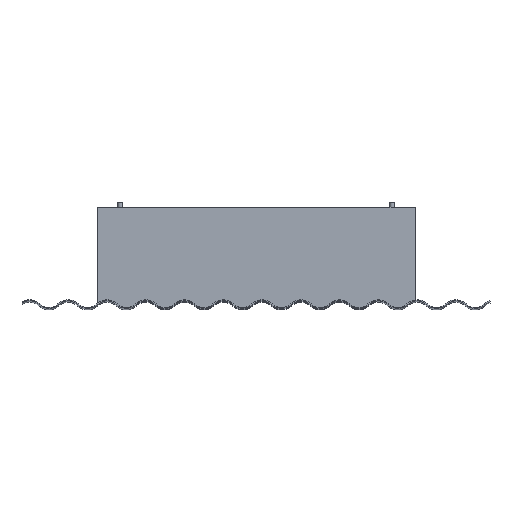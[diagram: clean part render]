
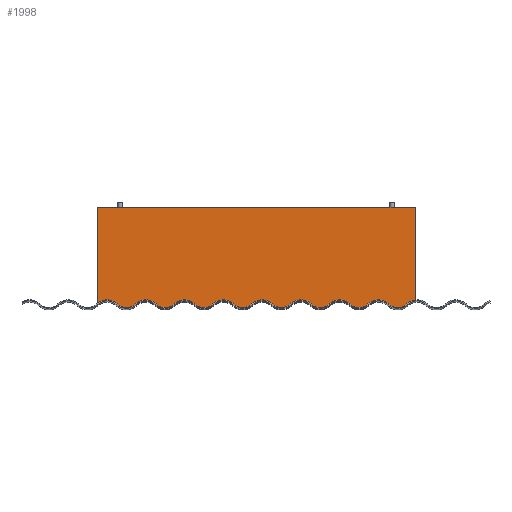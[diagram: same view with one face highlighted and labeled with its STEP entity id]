
A CAD part, top view. The second image highlights one B-rep face of the part: STEP entity #1998.
In plain terms, the highlighted planar face has unit normal (0, 0, 1).
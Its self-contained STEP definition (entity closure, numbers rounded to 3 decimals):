
#79=LINE('',#3298,#220);
#83=LINE('',#3341,#224);
#85=LINE('',#3346,#226);
#220=VECTOR('',#2598,10.);
#224=VECTOR('',#2640,10.);
#226=VECTOR('',#2646,10.);
#320=PLANE('',#2183);
#375=FACE_OUTER_BOUND('',#489,.T.);
#489=EDGE_LOOP('',(#1465,#1466,#1467,#1468,#1469,#1470,#1471,#1472,#1473,
#1474,#1475,#1476,#1477,#1478,#1479,#1480,#1481,#1482,#1483,#1484));
#631=CIRCLE('',#2184,30.);
#632=CIRCLE('',#2185,30.);
#633=CIRCLE('',#2186,26.);
#634=CIRCLE('',#2187,30.);
#635=CIRCLE('',#2188,26.);
#636=CIRCLE('',#2189,30.);
#637=CIRCLE('',#2190,26.);
#638=CIRCLE('',#2191,30.);
#639=CIRCLE('',#2192,26.);
#640=CIRCLE('',#2193,30.);
#641=CIRCLE('',#2194,26.);
#642=CIRCLE('',#2195,30.);
#643=CIRCLE('',#2196,26.);
#644=CIRCLE('',#2197,30.);
#645=CIRCLE('',#2198,26.);
#646=CIRCLE('',#2199,30.);
#647=CIRCLE('',#2200,26.);
#817=VERTEX_POINT('',#3292);
#819=VERTEX_POINT('',#3296);
#838=VERTEX_POINT('',#3338);
#839=VERTEX_POINT('',#3340);
#840=VERTEX_POINT('',#3344);
#841=VERTEX_POINT('',#3347);
#842=VERTEX_POINT('',#3349);
#843=VERTEX_POINT('',#3351);
#844=VERTEX_POINT('',#3353);
#845=VERTEX_POINT('',#3355);
#846=VERTEX_POINT('',#3357);
#847=VERTEX_POINT('',#3359);
#848=VERTEX_POINT('',#3361);
#849=VERTEX_POINT('',#3363);
#850=VERTEX_POINT('',#3365);
#851=VERTEX_POINT('',#3367);
#852=VERTEX_POINT('',#3369);
#853=VERTEX_POINT('',#3371);
#854=VERTEX_POINT('',#3373);
#855=VERTEX_POINT('',#3375);
#1058=EDGE_CURVE('',#819,#817,#79,.T.);
#1079=EDGE_CURVE('',#839,#838,#83,.T.);
#1081=EDGE_CURVE('',#817,#840,#631,.T.);
#1082=EDGE_CURVE('',#819,#839,#85,.T.);
#1083=EDGE_CURVE('',#841,#838,#632,.T.);
#1084=EDGE_CURVE('',#842,#841,#633,.T.);
#1085=EDGE_CURVE('',#843,#842,#634,.T.);
#1086=EDGE_CURVE('',#844,#843,#635,.T.);
#1087=EDGE_CURVE('',#845,#844,#636,.T.);
#1088=EDGE_CURVE('',#846,#845,#637,.T.);
#1089=EDGE_CURVE('',#847,#846,#638,.T.);
#1090=EDGE_CURVE('',#848,#847,#639,.T.);
#1091=EDGE_CURVE('',#849,#848,#640,.T.);
#1092=EDGE_CURVE('',#850,#849,#641,.T.);
#1093=EDGE_CURVE('',#851,#850,#642,.T.);
#1094=EDGE_CURVE('',#852,#851,#643,.T.);
#1095=EDGE_CURVE('',#853,#852,#644,.T.);
#1096=EDGE_CURVE('',#854,#853,#645,.T.);
#1097=EDGE_CURVE('',#855,#854,#646,.T.);
#1098=EDGE_CURVE('',#840,#855,#647,.T.);
#1465=ORIENTED_EDGE('',*,*,#1081,.F.);
#1466=ORIENTED_EDGE('',*,*,#1058,.F.);
#1467=ORIENTED_EDGE('',*,*,#1082,.T.);
#1468=ORIENTED_EDGE('',*,*,#1079,.T.);
#1469=ORIENTED_EDGE('',*,*,#1083,.F.);
#1470=ORIENTED_EDGE('',*,*,#1084,.F.);
#1471=ORIENTED_EDGE('',*,*,#1085,.F.);
#1472=ORIENTED_EDGE('',*,*,#1086,.F.);
#1473=ORIENTED_EDGE('',*,*,#1087,.F.);
#1474=ORIENTED_EDGE('',*,*,#1088,.F.);
#1475=ORIENTED_EDGE('',*,*,#1089,.F.);
#1476=ORIENTED_EDGE('',*,*,#1090,.F.);
#1477=ORIENTED_EDGE('',*,*,#1091,.F.);
#1478=ORIENTED_EDGE('',*,*,#1092,.F.);
#1479=ORIENTED_EDGE('',*,*,#1093,.F.);
#1480=ORIENTED_EDGE('',*,*,#1094,.F.);
#1481=ORIENTED_EDGE('',*,*,#1095,.F.);
#1482=ORIENTED_EDGE('',*,*,#1096,.F.);
#1483=ORIENTED_EDGE('',*,*,#1097,.F.);
#1484=ORIENTED_EDGE('',*,*,#1098,.F.);
#1998=ADVANCED_FACE('',(#375),#320,.T.);
#2183=AXIS2_PLACEMENT_3D('',#3343,#2642,#2643);
#2184=AXIS2_PLACEMENT_3D('',#3345,#2644,#2645);
#2185=AXIS2_PLACEMENT_3D('',#3348,#2647,#2648);
#2186=AXIS2_PLACEMENT_3D('',#3350,#2649,#2650);
#2187=AXIS2_PLACEMENT_3D('',#3352,#2651,#2652);
#2188=AXIS2_PLACEMENT_3D('',#3354,#2653,#2654);
#2189=AXIS2_PLACEMENT_3D('',#3356,#2655,#2656);
#2190=AXIS2_PLACEMENT_3D('',#3358,#2657,#2658);
#2191=AXIS2_PLACEMENT_3D('',#3360,#2659,#2660);
#2192=AXIS2_PLACEMENT_3D('',#3362,#2661,#2662);
#2193=AXIS2_PLACEMENT_3D('',#3364,#2663,#2664);
#2194=AXIS2_PLACEMENT_3D('',#3366,#2665,#2666);
#2195=AXIS2_PLACEMENT_3D('',#3368,#2667,#2668);
#2196=AXIS2_PLACEMENT_3D('',#3370,#2669,#2670);
#2197=AXIS2_PLACEMENT_3D('',#3372,#2671,#2672);
#2198=AXIS2_PLACEMENT_3D('',#3374,#2673,#2674);
#2199=AXIS2_PLACEMENT_3D('',#3376,#2675,#2676);
#2200=AXIS2_PLACEMENT_3D('',#3377,#2677,#2678);
#2598=DIRECTION('',(0.,-1.,0.));
#2640=DIRECTION('',(0.,-1.,0.));
#2642=DIRECTION('center_axis',(0.,0.,1.));
#2643=DIRECTION('ref_axis',(-1.,0.,0.));
#2644=DIRECTION('center_axis',(0.,0.,1.));
#2645=DIRECTION('ref_axis',(-0.681,-0.732,0.));
#2646=DIRECTION('',(-1.,0.,0.));
#2647=DIRECTION('center_axis',(0.,0.,1.));
#2648=DIRECTION('ref_axis',(-0.681,-0.732,0.));
#2649=DIRECTION('center_axis',(0.,0.,-1.));
#2650=DIRECTION('ref_axis',(-0.681,-0.732,0.));
#2651=DIRECTION('center_axis',(0.,0.,1.));
#2652=DIRECTION('ref_axis',(-0.681,-0.732,0.));
#2653=DIRECTION('center_axis',(0.,0.,-1.));
#2654=DIRECTION('ref_axis',(-0.681,-0.732,0.));
#2655=DIRECTION('center_axis',(0.,0.,1.));
#2656=DIRECTION('ref_axis',(-0.681,-0.732,0.));
#2657=DIRECTION('center_axis',(0.,0.,-1.));
#2658=DIRECTION('ref_axis',(-0.681,-0.732,0.));
#2659=DIRECTION('center_axis',(0.,0.,1.));
#2660=DIRECTION('ref_axis',(-0.681,-0.732,0.));
#2661=DIRECTION('center_axis',(0.,0.,-1.));
#2662=DIRECTION('ref_axis',(-0.681,-0.732,0.));
#2663=DIRECTION('center_axis',(0.,0.,1.));
#2664=DIRECTION('ref_axis',(-0.681,-0.732,0.));
#2665=DIRECTION('center_axis',(0.,0.,-1.));
#2666=DIRECTION('ref_axis',(-0.681,-0.732,0.));
#2667=DIRECTION('center_axis',(0.,0.,1.));
#2668=DIRECTION('ref_axis',(-0.681,-0.732,0.));
#2669=DIRECTION('center_axis',(0.,0.,-1.));
#2670=DIRECTION('ref_axis',(-0.681,-0.732,0.));
#2671=DIRECTION('center_axis',(0.,0.,1.));
#2672=DIRECTION('ref_axis',(-0.681,-0.732,0.));
#2673=DIRECTION('center_axis',(0.,0.,-1.));
#2674=DIRECTION('ref_axis',(-0.681,-0.732,0.));
#2675=DIRECTION('center_axis',(0.,0.,1.));
#2676=DIRECTION('ref_axis',(-0.681,-0.732,0.));
#2677=DIRECTION('center_axis',(0.,0.,-1.));
#2678=DIRECTION('ref_axis',(0.,-1.,0.));
#3292=CARTESIAN_POINT('',(312.5,16.725,312.5));
#3296=CARTESIAN_POINT('',(312.5,200.,312.5));
#3298=CARTESIAN_POINT('',(312.5,200.,312.5));
#3338=CARTESIAN_POINT('',(-312.5,10.424,312.5));
#3340=CARTESIAN_POINT('',(-312.5,200.,312.5));
#3341=CARTESIAN_POINT('',(-312.5,200.,312.5));
#3343=CARTESIAN_POINT('Origin',(312.5,200.,312.5));
#3344=CARTESIAN_POINT('',(296.121,8.964,312.5));
#3345=CARTESIAN_POINT('Origin',(316.555,-13.,312.5));
#3346=CARTESIAN_POINT('',(312.5,200.,312.5));
#3347=CARTESIAN_POINT('',(-273.322,8.964,312.5));
#3348=CARTESIAN_POINT('Origin',(-293.756,-13.,312.5));
#3349=CARTESIAN_POINT('',(-237.902,8.964,312.5));
#3350=CARTESIAN_POINT('Origin',(-255.612,28.,312.5));
#3351=CARTESIAN_POINT('',(-197.033,8.964,312.5));
#3352=CARTESIAN_POINT('Origin',(-217.467,-13.,312.5));
#3353=CARTESIAN_POINT('',(-161.613,8.964,312.5));
#3354=CARTESIAN_POINT('Origin',(-179.323,28.,312.5));
#3355=CARTESIAN_POINT('',(-120.744,8.964,312.5));
#3356=CARTESIAN_POINT('Origin',(-141.178,-13.,312.5));
#3357=CARTESIAN_POINT('',(-85.324,8.964,312.5));
#3358=CARTESIAN_POINT('Origin',(-103.034,28.,312.5));
#3359=CARTESIAN_POINT('',(-44.455,8.964,312.5));
#3360=CARTESIAN_POINT('Origin',(-64.889,-13.,312.5));
#3361=CARTESIAN_POINT('',(-9.035,8.964,312.5));
#3362=CARTESIAN_POINT('Origin',(-26.745,28.,312.5));
#3363=CARTESIAN_POINT('',(31.834,8.964,312.5));
#3364=CARTESIAN_POINT('Origin',(11.4,-13.,312.5));
#3365=CARTESIAN_POINT('',(67.254,8.964,312.5));
#3366=CARTESIAN_POINT('Origin',(49.544,28.,312.5));
#3367=CARTESIAN_POINT('',(108.123,8.964,312.5));
#3368=CARTESIAN_POINT('Origin',(87.688,-13.,312.5));
#3369=CARTESIAN_POINT('',(143.543,8.964,312.5));
#3370=CARTESIAN_POINT('Origin',(125.833,28.,312.5));
#3371=CARTESIAN_POINT('',(184.412,8.964,312.5));
#3372=CARTESIAN_POINT('Origin',(163.977,-13.,312.5));
#3373=CARTESIAN_POINT('',(219.832,8.964,312.5));
#3374=CARTESIAN_POINT('Origin',(202.122,28.,312.5));
#3375=CARTESIAN_POINT('',(260.701,8.964,312.5));
#3376=CARTESIAN_POINT('Origin',(240.266,-13.,312.5));
#3377=CARTESIAN_POINT('Origin',(278.411,28.,312.5));
